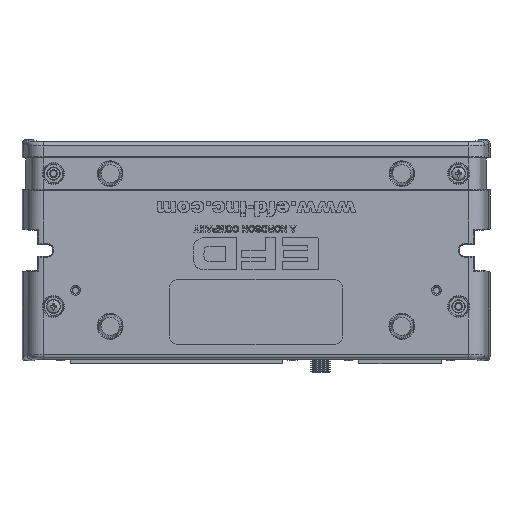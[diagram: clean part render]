
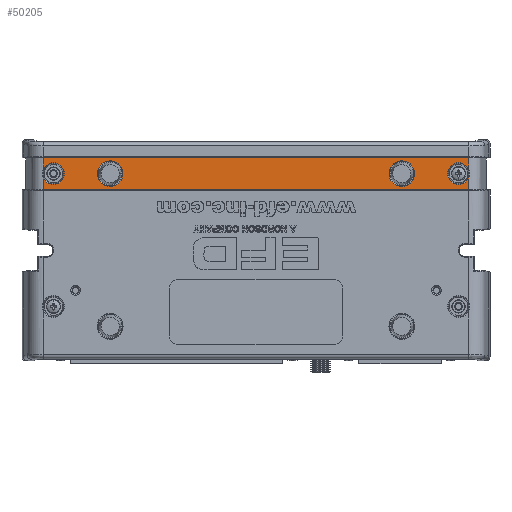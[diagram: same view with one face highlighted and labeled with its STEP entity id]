
A CAD part, front view. The second image highlights one B-rep face of the part: STEP entity #50205.
In plain terms, the highlighted planar face has unit normal (0, -1, 0).
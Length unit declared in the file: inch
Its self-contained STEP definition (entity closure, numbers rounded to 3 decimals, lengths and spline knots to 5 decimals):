
#3331 = ORIENTED_EDGE ( 'NONE', *, *, #215781, .T. ) ;
#6396 = VERTEX_POINT ( 'NONE', #54544 ) ;
#7683 = ORIENTED_EDGE ( 'NONE', *, *, #176604, .T. ) ;
#11696 = VERTEX_POINT ( 'NONE', #173692 ) ;
#12506 = CIRCLE ( 'NONE', #170303, 0.16778 ) ;
#13499 = AXIS2_PLACEMENT_3D ( 'NONE', #198707, #219444, #147225 ) ;
#20520 = AXIS2_PLACEMENT_3D ( 'NONE', #301190, #187634, #117509 ) ;
#25903 = AXIS2_PLACEMENT_3D ( 'NONE', #112230, #185415, #89576 ) ;
#26000 = DIRECTION ( 'NONE',  ( 0., 0., 1. ) ) ;
#30465 = VERTEX_POINT ( 'NONE', #85258 ) ;
#31221 = CIRCLE ( 'NONE', #20520, 0.16778 ) ;
#33209 = CARTESIAN_POINT ( 'NONE',  ( 3.27907, 0.06, 0.93368 ) ) ;
#34339 = ORIENTED_EDGE ( 'NONE', *, *, #240465, .T. ) ;
#35165 = EDGE_CURVE ( 'NONE', #11696, #63529, #31221, .T. ) ;
#36853 = CARTESIAN_POINT ( 'NONE',  ( 3.27907, 0.06, 1.24963 ) ) ;
#38864 = ORIENTED_EDGE ( 'NONE', *, *, #99771, .T. ) ;
#38975 = FACE_OUTER_BOUND ( 'NONE', #120089, .T. ) ;
#39830 = CIRCLE ( 'NONE', #289777, 0.16778 ) ;
#41422 = CARTESIAN_POINT ( 'NONE',  ( 3.27907, 0.06, 1.11677 ) ) ;
#42109 = EDGE_CURVE ( 'NONE', #254963, #251788, #285481, .T. ) ;
#45516 = CARTESIAN_POINT ( 'NONE',  ( -3.125, 0.06, 1.1832 ) ) ;
#46329 = DIRECTION ( 'NONE',  ( 0., 0., -1. ) ) ;
#48416 = LINE ( 'NONE', #33209, #114748 ) ;
#48702 = EDGE_CURVE ( 'NONE', #285635, #145769, #220757, .T. ) ;
#48822 = CARTESIAN_POINT ( 'NONE',  ( 2.25, 0.06, 1.38108 ) ) ;
#48938 = ORIENTED_EDGE ( 'NONE', *, *, #216855, .T. ) ;
#49328 = VECTOR ( 'NONE', #88392, 39.37008 ) ;
#50205 = ADVANCED_FACE ( 'NONE', ( #230828, #168041, #38975 ), #168568, .F. ) ;
#54544 = CARTESIAN_POINT ( 'NONE',  ( -3.27907, 0.06, 1.43272 ) ) ;
#60303 = EDGE_LOOP ( 'NONE', ( #3331, #279455 ) ) ;
#60350 = CARTESIAN_POINT ( 'NONE',  ( 2.25, 0.06, 1.1832 ) ) ;
#60941 = CARTESIAN_POINT ( 'NONE',  ( 3.125, 0.06, 1.01542 ) ) ;
#61446 = ORIENTED_EDGE ( 'NONE', *, *, #35165, .T. ) ;
#63529 = VERTEX_POINT ( 'NONE', #204525 ) ;
#65455 = ORIENTED_EDGE ( 'NONE', *, *, #48702, .T. ) ;
#72713 = DIRECTION ( 'NONE',  ( 0., 1., 0. ) ) ;
#73423 = VERTEX_POINT ( 'NONE', #100068 ) ;
#74037 = CIRCLE ( 'NONE', #13499, 0.19788 ) ;
#75021 = DIRECTION ( 'NONE',  ( 0., 1., 0. ) ) ;
#77150 = DIRECTION ( 'NONE',  ( 0., 0., 1. ) ) ;
#81237 = ORIENTED_EDGE ( 'NONE', *, *, #294114, .T. ) ;
#85258 = CARTESIAN_POINT ( 'NONE',  ( -3.27907, 0.06, 1.11677 ) ) ;
#87854 = VERTEX_POINT ( 'NONE', #36853 ) ;
#88392 = DIRECTION ( 'NONE',  ( 0., 0., -1. ) ) ;
#89576 = DIRECTION ( 'NONE',  ( 0., 0., 1. ) ) ;
#91368 = VECTOR ( 'NONE', #46329, 39.37008 ) ;
#94932 = EDGE_CURVE ( 'NONE', #242441, #176266, #248415, .T. ) ;
#96692 = DIRECTION ( 'NONE',  ( 0., 0., 1. ) ) ;
#97043 = EDGE_CURVE ( 'NONE', #247827, #251788, #48416, .T. ) ;
#97217 = CARTESIAN_POINT ( 'NONE',  ( 2.25, 0.06, 0.98532 ) ) ;
#99771 = EDGE_CURVE ( 'NONE', #6396, #11696, #238998, .T. ) ;
#100068 = CARTESIAN_POINT ( 'NONE',  ( 3.27907, 0.06, 1.43272 ) ) ;
#100625 = CARTESIAN_POINT ( 'NONE',  ( -2.25, 0.06, 0.98532 ) ) ;
#101337 = DIRECTION ( 'NONE',  ( 0., 0., -1. ) ) ;
#112230 = CARTESIAN_POINT ( 'NONE',  ( 2.25, 0.06, 1.1832 ) ) ;
#112507 = CIRCLE ( 'NONE', #132536, 0.16778 ) ;
#112915 = CIRCLE ( 'NONE', #220280, 0.16778 ) ;
#113951 = CARTESIAN_POINT ( 'NONE',  ( -3.125, 0.06, 1.01542 ) ) ;
#114748 = VECTOR ( 'NONE', #130112, 39.37008 ) ;
#116518 = DIRECTION ( 'NONE',  ( 0., 0., 1. ) ) ;
#116798 = ORIENTED_EDGE ( 'NONE', *, *, #243335, .T. ) ;
#117509 = DIRECTION ( 'NONE',  ( 0., 0., 1. ) ) ;
#117708 = CARTESIAN_POINT ( 'NONE',  ( 3.27907, 0.06, 0.93368 ) ) ;
#120089 = EDGE_LOOP ( 'NONE', ( #300244, #146403, #215212, #34339, #65455, #116798, #156933, #7683, #38864, #61446, #200358, #225411 ) ) ;
#123555 = VERTEX_POINT ( 'NONE', #48822 ) ;
#130112 = DIRECTION ( 'NONE',  ( 1., 0., 0. ) ) ;
#132536 = AXIS2_PLACEMENT_3D ( 'NONE', #168833, #75021, #96692 ) ;
#135132 = CARTESIAN_POINT ( 'NONE',  ( -3.27907, 0.06, 1.4382 ) ) ;
#135855 = AXIS2_PLACEMENT_3D ( 'NONE', #140228, #277382, #116518 ) ;
#140228 = CARTESIAN_POINT ( 'NONE',  ( -2.25, 0.06, 1.1832 ) ) ;
#141304 = DIRECTION ( 'NONE',  ( 0., 0., 1. ) ) ;
#142334 = DIRECTION ( 'NONE',  ( 0., 1., 0. ) ) ;
#143175 = CARTESIAN_POINT ( 'NONE',  ( -2.25, 0.06, 1.38108 ) ) ;
#144676 = LINE ( 'NONE', #280888, #233217 ) ;
#145769 = VERTEX_POINT ( 'NONE', #214749 ) ;
#146403 = ORIENTED_EDGE ( 'NONE', *, *, #97043, .T. ) ;
#147225 = DIRECTION ( 'NONE',  ( 0., 0., 1. ) ) ;
#148310 = CARTESIAN_POINT ( 'NONE',  ( 3.125, 0.06, 1.1832 ) ) ;
#156933 = ORIENTED_EDGE ( 'NONE', *, *, #232950, .F. ) ;
#159977 = AXIS2_PLACEMENT_3D ( 'NONE', #60350, #225345, #267665 ) ;
#161105 = AXIS2_PLACEMENT_3D ( 'NONE', #166549, #72713, #234668 ) ;
#164155 = DIRECTION ( 'NONE',  ( 0., 1., 0. ) ) ;
#165780 = CIRCLE ( 'NONE', #159977, 0.19788 ) ;
#166339 = CARTESIAN_POINT ( 'NONE',  ( 3.125, 0.06, 1.1832 ) ) ;
#166549 = CARTESIAN_POINT ( 'NONE',  ( 3.27907, 0.06, 1.4382 ) ) ;
#167059 = CARTESIAN_POINT ( 'NONE',  ( 3.125, 0.06, 1.1832 ) ) ;
#168041 = FACE_BOUND ( 'NONE', #60303, .T. ) ;
#168568 = PLANE ( 'NONE',  #161105 ) ;
#168833 = CARTESIAN_POINT ( 'NONE',  ( -3.125, 0.06, 1.1832 ) ) ;
#170303 = AXIS2_PLACEMENT_3D ( 'NONE', #166339, #262120, #26000 ) ;
#173692 = CARTESIAN_POINT ( 'NONE',  ( -3.27907, 0.06, 1.24963 ) ) ;
#176266 = VERTEX_POINT ( 'NONE', #143175 ) ;
#176604 = EDGE_CURVE ( 'NONE', #73423, #6396, #191114, .T. ) ;
#176884 = EDGE_CURVE ( 'NONE', #30465, #247827, #283078, .T. ) ;
#185415 = DIRECTION ( 'NONE',  ( 0., 1., 0. ) ) ;
#187634 = DIRECTION ( 'NONE',  ( 0., 1., 0. ) ) ;
#191114 = LINE ( 'NONE', #268594, #246395 ) ;
#198707 = CARTESIAN_POINT ( 'NONE',  ( -2.25, 0.06, 1.1832 ) ) ;
#200358 = ORIENTED_EDGE ( 'NONE', *, *, #293471, .T. ) ;
#202199 = AXIS2_PLACEMENT_3D ( 'NONE', #167059, #142334, #141304 ) ;
#203701 = VERTEX_POINT ( 'NONE', #113951 ) ;
#204525 = CARTESIAN_POINT ( 'NONE',  ( -3.125, 0.06, 1.35098 ) ) ;
#210524 = DIRECTION ( 'NONE',  ( 0., 0., 1. ) ) ;
#214749 = CARTESIAN_POINT ( 'NONE',  ( 3.125, 0.06, 1.35098 ) ) ;
#215212 = ORIENTED_EDGE ( 'NONE', *, *, #42109, .F. ) ;
#215781 = EDGE_CURVE ( 'NONE', #176266, #242441, #74037, .T. ) ;
#216855 = EDGE_CURVE ( 'NONE', #123555, #242016, #165780, .T. ) ;
#218245 = DIRECTION ( 'NONE',  ( -1., 0., 0. ) ) ;
#219444 = DIRECTION ( 'NONE',  ( 0., 1., 0. ) ) ;
#220280 = AXIS2_PLACEMENT_3D ( 'NONE', #45516, #164155, #210524 ) ;
#220757 = CIRCLE ( 'NONE', #202199, 0.16778 ) ;
#225345 = DIRECTION ( 'NONE',  ( 0., 1., 0. ) ) ;
#225411 = ORIENTED_EDGE ( 'NONE', *, *, #275846, .T. ) ;
#230828 = FACE_BOUND ( 'NONE', #266163, .T. ) ;
#232950 = EDGE_CURVE ( 'NONE', #73423, #87854, #144676, .T. ) ;
#233217 = VECTOR ( 'NONE', #257188, 39.37008 ) ;
#234668 = DIRECTION ( 'NONE',  ( 0., 0., 1. ) ) ;
#238998 = LINE ( 'NONE', #135132, #91368 ) ;
#240465 = EDGE_CURVE ( 'NONE', #254963, #285635, #12506, .T. ) ;
#242016 = VERTEX_POINT ( 'NONE', #97217 ) ;
#242441 = VERTEX_POINT ( 'NONE', #100625 ) ;
#243335 = EDGE_CURVE ( 'NONE', #145769, #87854, #39830, .T. ) ;
#246395 = VECTOR ( 'NONE', #218245, 39.37008 ) ;
#247827 = VERTEX_POINT ( 'NONE', #256834 ) ;
#248415 = CIRCLE ( 'NONE', #135855, 0.19788 ) ;
#251788 = VERTEX_POINT ( 'NONE', #117708 ) ;
#254963 = VERTEX_POINT ( 'NONE', #41422 ) ;
#256834 = CARTESIAN_POINT ( 'NONE',  ( -3.27907, 0.06, 0.93368 ) ) ;
#257188 = DIRECTION ( 'NONE',  ( 0., 0., -1. ) ) ;
#257367 = CARTESIAN_POINT ( 'NONE',  ( 3.27907, 0.06, 1.4382 ) ) ;
#262120 = DIRECTION ( 'NONE',  ( 0., 1., 0. ) ) ;
#263143 = CARTESIAN_POINT ( 'NONE',  ( -3.27907, 0.06, 1.4382 ) ) ;
#266163 = EDGE_LOOP ( 'NONE', ( #48938, #81237 ) ) ;
#266792 = DIRECTION ( 'NONE',  ( 0., 1., 0. ) ) ;
#267665 = DIRECTION ( 'NONE',  ( 0., 0., 1. ) ) ;
#268594 = CARTESIAN_POINT ( 'NONE',  ( 3.27907, 0.06, 1.43272 ) ) ;
#275651 = VECTOR ( 'NONE', #101337, 39.37008 ) ;
#275846 = EDGE_CURVE ( 'NONE', #203701, #30465, #112915, .T. ) ;
#277382 = DIRECTION ( 'NONE',  ( 0., 1., 0. ) ) ;
#279455 = ORIENTED_EDGE ( 'NONE', *, *, #94932, .T. ) ;
#280888 = CARTESIAN_POINT ( 'NONE',  ( 3.27907, 0.06, 1.4382 ) ) ;
#283078 = LINE ( 'NONE', #263143, #275651 ) ;
#285481 = LINE ( 'NONE', #257367, #49328 ) ;
#285635 = VERTEX_POINT ( 'NONE', #60941 ) ;
#289777 = AXIS2_PLACEMENT_3D ( 'NONE', #148310, #266792, #77150 ) ;
#293471 = EDGE_CURVE ( 'NONE', #63529, #203701, #112507, .T. ) ;
#294114 = EDGE_CURVE ( 'NONE', #242016, #123555, #300434, .T. ) ;
#300244 = ORIENTED_EDGE ( 'NONE', *, *, #176884, .T. ) ;
#300434 = CIRCLE ( 'NONE', #25903, 0.19788 ) ;
#301190 = CARTESIAN_POINT ( 'NONE',  ( -3.125, 0.06, 1.1832 ) ) ;
